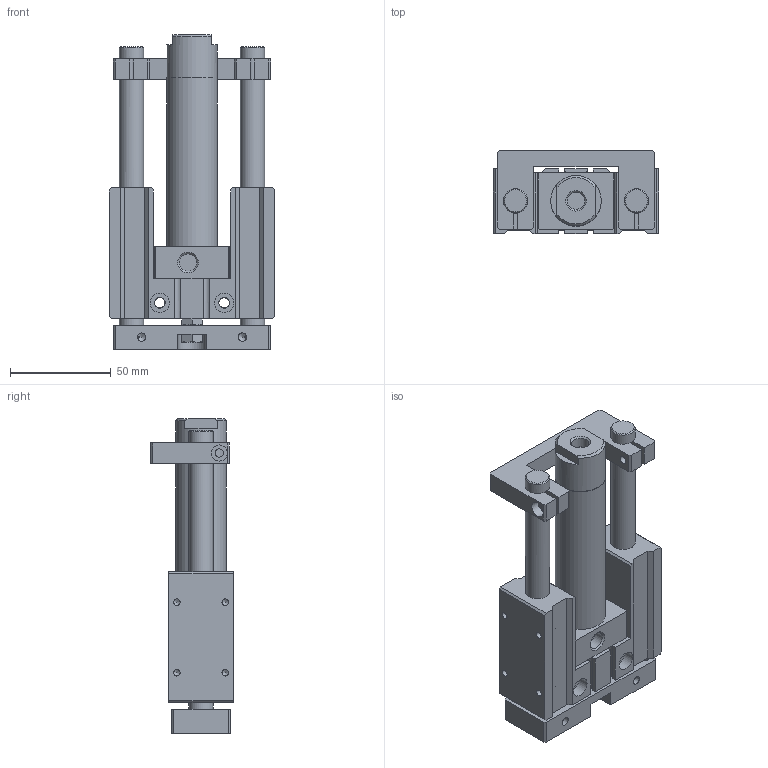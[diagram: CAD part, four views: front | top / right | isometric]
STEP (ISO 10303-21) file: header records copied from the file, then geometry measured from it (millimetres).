
FILE_DESCRIPTION((''),'2;1');
FILE_NAME('I:\3D電子目錄\氣缸\TMB(U)\TMB(U)\TMB(U)20\TMB(U)20x50.stp','2007-10-04T14:59:56',('Administrator'),(''),'Autodesk Inventor 11','Autodesk Inventor 11','');
FILE_SCHEMA(('AUTOMOTIVE_DESIGN { 1 0 10303 214 1 1 1 1 }'));
Length unit declared in the file: millimetre
Products named in the file (1): TMB(U)20
Bounding box: 82 x 41 x 156 mm (x, y, z)
Volume: 223770.5 mm3; surface area: 55067.2 mm2
Topology: 1 solids, 1 shells, 244 faces, 668 edges, 432 vertices
Faces by surface type: plane 139, bspline 50, cone 28, cylinder 25, torus 2
Full cylindrical faces by diameter (mm): 3.242 x4, 4.134 x4, 8 x1, 10 x2, 11 x2, 12 x3, 25 x2
Entity records: 7581 total; most frequent: CARTESIAN_POINT 2093, ORIENTED_EDGE 1088, DIRECTION 1054, EDGE_CURVE 544, VERTEX_POINT 384, EDGE_LOOP 368, AXIS2_PLACEMENT_3D 355, VECTOR 344
